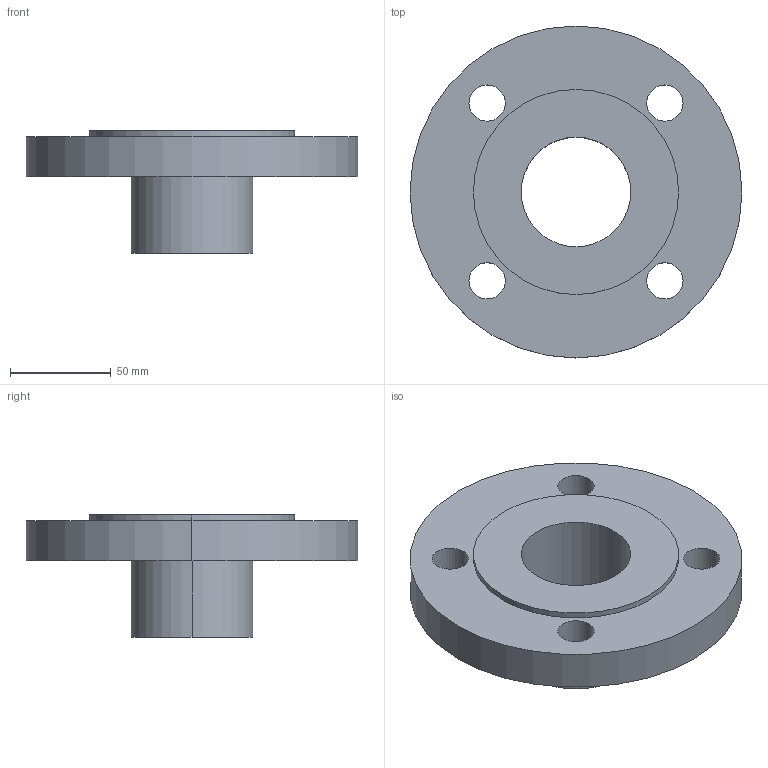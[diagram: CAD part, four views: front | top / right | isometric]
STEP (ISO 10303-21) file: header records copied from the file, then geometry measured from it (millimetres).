
FILE_DESCRIPTION (( 'STEP AP214' ), '1' );
FILE_NAME ('PN40 DN50 Type 02 in 33 - (Type A Face).STEP', '2018-12-30T04:43:18', ( '' ), ( '' ), 'SwSTEP 2.0', 'SolidWorks 2019', '' );
FILE_SCHEMA (( 'AUTOMOTIVE_DESIGN' ));
Length unit declared in the file: millimetre
Products named in the file (1): PN40 DN50 Type 02 in 33 - (Type A Face)
Bounding box: 165 x 165 x 60.9 mm (x, y, z)
Volume: 388003.7 mm3; surface area: 86000.6 mm2
Topology: 2 solids, 2 shells, 27 faces, 62 edges, 40 vertices
Faces by surface type: cylinder 18, plane 5, cone 4
Entity records: 851 total; most frequent: DIRECTION 158, CARTESIAN_POINT 130, ORIENTED_EDGE 124, AXIS2_PLACEMENT_3D 68, EDGE_CURVE 62, VERTEX_POINT 40, CIRCLE 40, EDGE_LOOP 40
